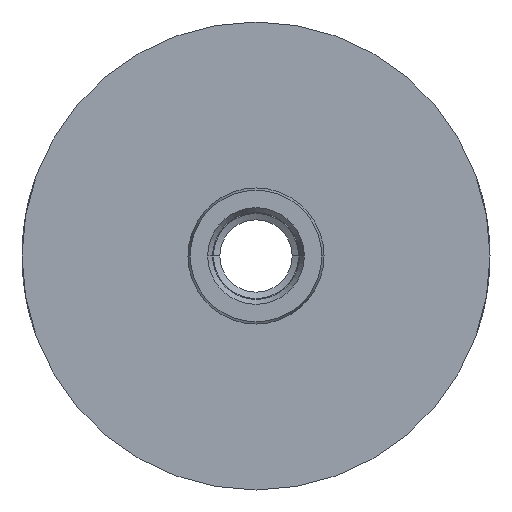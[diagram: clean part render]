
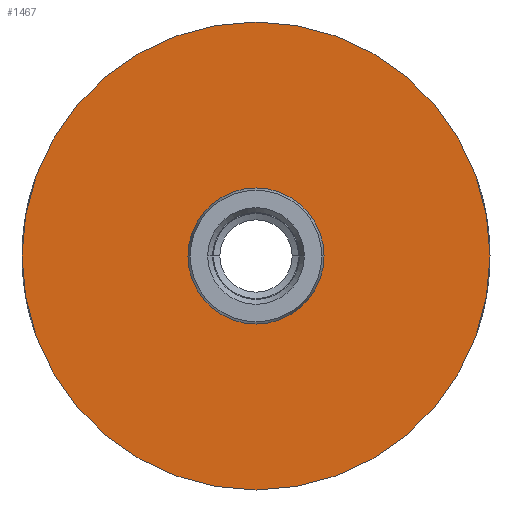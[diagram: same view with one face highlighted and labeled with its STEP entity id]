
A CAD part, front view. The second image highlights one B-rep face of the part: STEP entity #1467.
In plain terms, the highlighted planar face has unit normal (0, -1, 0).
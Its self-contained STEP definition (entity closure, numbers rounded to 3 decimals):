
#162 = DIRECTION ( 'NONE',  ( 0., 1., 0. ) ) ;
#178 = AXIS2_PLACEMENT_3D ( 'NONE', #1234, #1260, #1399 ) ;
#180 = CIRCLE ( 'NONE', #178, 8. ) ;
#225 = VERTEX_POINT ( 'NONE', #1812 ) ;
#269 = VERTEX_POINT ( 'NONE', #1859 ) ;
#285 = ORIENTED_EDGE ( 'NONE', *, *, #1201, .F. ) ;
#325 = CIRCLE ( 'NONE', #505, 27.5 ) ;
#343 = DIRECTION ( 'NONE',  ( 0., 0., 1. ) ) ;
#419 = AXIS2_PLACEMENT_3D ( 'NONE', #2045, #2405, #880 ) ;
#505 = AXIS2_PLACEMENT_3D ( 'NONE', #978, #162, #343 ) ;
#726 = VERTEX_POINT ( 'NONE', #1929 ) ;
#745 = VERTEX_POINT ( 'NONE', #1937 ) ;
#880 = DIRECTION ( 'NONE',  ( 0., 0., 1. ) ) ;
#887 = EDGE_CURVE ( 'NONE', #745, #269, #2275, .T. ) ;
#917 = AXIS2_PLACEMENT_3D ( 'NONE', #2267, #2223, #1585 ) ;
#978 = CARTESIAN_POINT ( 'NONE',  ( 0., 0., 0. ) ) ;
#1201 = EDGE_CURVE ( 'NONE', #269, #745, #325, .T. ) ;
#1228 = AXIS2_PLACEMENT_3D ( 'NONE', #1974, #2009, #1988 ) ;
#1229 = ORIENTED_EDGE ( 'NONE', *, *, #2080, .T. ) ;
#1234 = CARTESIAN_POINT ( 'NONE',  ( 0., 0., 0. ) ) ;
#1260 = DIRECTION ( 'NONE',  ( 0., 1., 0. ) ) ;
#1324 = FACE_OUTER_BOUND ( 'NONE', #2460, .T. ) ;
#1353 = CIRCLE ( 'NONE', #917, 8. ) ;
#1399 = DIRECTION ( 'NONE',  ( 0., 0., 1. ) ) ;
#1467 = ADVANCED_FACE ( 'NONE', ( #1324, #1884 ), #1802, .F. ) ;
#1474 = ORIENTED_EDGE ( 'NONE', *, *, #1701, .T. ) ;
#1585 = DIRECTION ( 'NONE',  ( 0., 0., 1. ) ) ;
#1695 = ORIENTED_EDGE ( 'NONE', *, *, #887, .F. ) ;
#1701 = EDGE_CURVE ( 'NONE', #225, #726, #1353, .T. ) ;
#1802 = PLANE ( 'NONE',  #1228 ) ;
#1812 = CARTESIAN_POINT ( 'NONE',  ( 0., 0., 8. ) ) ;
#1859 = CARTESIAN_POINT ( 'NONE',  ( 0., 0., 27.5 ) ) ;
#1884 = FACE_BOUND ( 'NONE', #2197, .T. ) ;
#1929 = CARTESIAN_POINT ( 'NONE',  ( 0., 0., -8. ) ) ;
#1937 = CARTESIAN_POINT ( 'NONE',  ( 0., 0., -27.5 ) ) ;
#1974 = CARTESIAN_POINT ( 'NONE',  ( 8., 0., 0. ) ) ;
#1988 = DIRECTION ( 'NONE',  ( 0., 0., 1. ) ) ;
#2009 = DIRECTION ( 'NONE',  ( 0., 1., 0. ) ) ;
#2045 = CARTESIAN_POINT ( 'NONE',  ( 0., 0., 0. ) ) ;
#2080 = EDGE_CURVE ( 'NONE', #726, #225, #180, .T. ) ;
#2197 = EDGE_LOOP ( 'NONE', ( #1474, #1229 ) ) ;
#2223 = DIRECTION ( 'NONE',  ( 0., 1., 0. ) ) ;
#2267 = CARTESIAN_POINT ( 'NONE',  ( 0., 0., 0. ) ) ;
#2275 = CIRCLE ( 'NONE', #419, 27.5 ) ;
#2405 = DIRECTION ( 'NONE',  ( 0., 1., 0. ) ) ;
#2460 = EDGE_LOOP ( 'NONE', ( #285, #1695 ) ) ;
